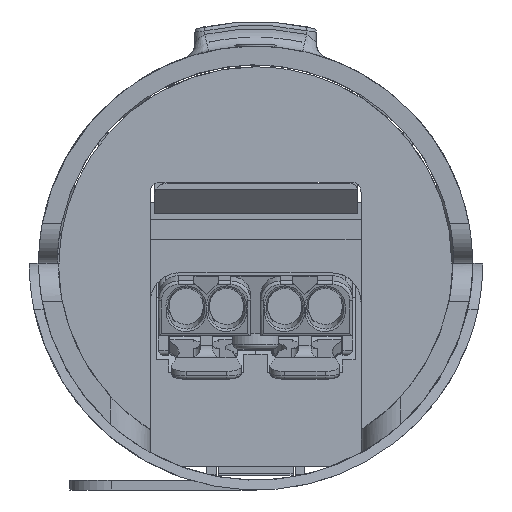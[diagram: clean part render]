
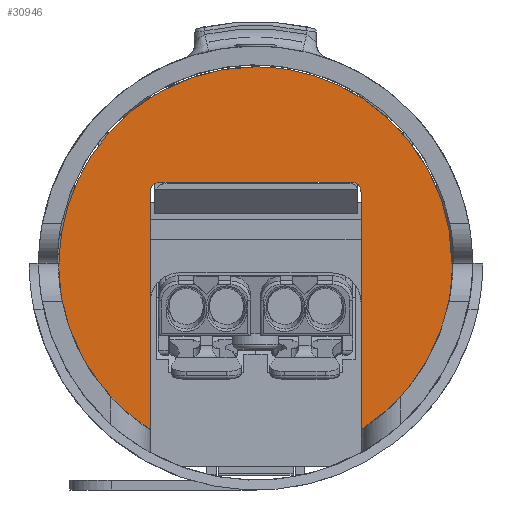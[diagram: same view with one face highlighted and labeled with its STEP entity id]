
A CAD part, left-side view. The second image highlights one B-rep face of the part: STEP entity #30946.
In plain terms, the highlighted planar face has unit normal (-1, 0, 0.009).
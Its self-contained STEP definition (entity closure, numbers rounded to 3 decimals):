
#7326=ORIENTED_EDGE('',*,*,#16497,.T.);
#7327=ORIENTED_EDGE('',*,*,#16498,.T.);
#7328=ORIENTED_EDGE('',*,*,#16499,.T.);
#7329=ORIENTED_EDGE('',*,*,#16500,.F.);
#7330=ORIENTED_EDGE('',*,*,#16501,.T.);
#7331=ORIENTED_EDGE('',*,*,#16502,.T.);
#7332=ORIENTED_EDGE('',*,*,#16503,.F.);
#7333=ORIENTED_EDGE('',*,*,#16504,.F.);
#7334=ORIENTED_EDGE('',*,*,#16505,.F.);
#7335=ORIENTED_EDGE('',*,*,#16506,.T.);
#7336=ORIENTED_EDGE('',*,*,#16479,.F.);
#7337=ORIENTED_EDGE('',*,*,#16507,.T.);
#16479=EDGE_CURVE('',#21503,#21504,#25000,.T.);
#16497=EDGE_CURVE('',#21514,#21515,#25018,.T.);
#16498=EDGE_CURVE('',#21515,#21516,#25019,.T.);
#16499=EDGE_CURVE('',#21516,#21517,#25020,.T.);
#16500=EDGE_CURVE('',#21518,#21517,#25021,.F.);
#16501=EDGE_CURVE('',#21518,#21519,#25022,.T.);
#16502=EDGE_CURVE('',#21519,#21520,#25023,.T.);
#16503=EDGE_CURVE('',#21521,#21520,#25024,.F.);
#16504=EDGE_CURVE('',#21522,#21521,#25025,.F.);
#16505=EDGE_CURVE('',#21523,#21522,#25026,.F.);
#16506=EDGE_CURVE('',#21523,#21504,#25027,.T.);
#16507=EDGE_CURVE('',#21503,#21514,#25028,.T.);
#21503=VERTEX_POINT('',#44892);
#21504=VERTEX_POINT('',#44897);
#21514=VERTEX_POINT('',#44985);
#21515=VERTEX_POINT('',#44986);
#21516=VERTEX_POINT('',#44991);
#21517=VERTEX_POINT('',#44996);
#21518=VERTEX_POINT('',#45001);
#21519=VERTEX_POINT('',#45011);
#21520=VERTEX_POINT('',#45016);
#21521=VERTEX_POINT('',#45034);
#21522=VERTEX_POINT('',#45052);
#21523=VERTEX_POINT('',#45057);
#25000=B_SPLINE_CURVE_WITH_KNOTS('',3,(#44893,#44894,#44895,#44896),
 .UNSPECIFIED.,.F.,.F.,(4,4),(0.,1.),.UNSPECIFIED.);
#25018=B_SPLINE_CURVE_WITH_KNOTS('',3,(#44981,#44982,#44983,#44984),
 .UNSPECIFIED.,.F.,.F.,(4,4),(0.,1.),.UNSPECIFIED.);
#25019=B_SPLINE_CURVE_WITH_KNOTS('',3,(#44987,#44988,#44989,#44990),
 .UNSPECIFIED.,.F.,.F.,(4,4),(0.,1.),.UNSPECIFIED.);
#25020=B_SPLINE_CURVE_WITH_KNOTS('',3,(#44992,#44993,#44994,#44995),
 .UNSPECIFIED.,.F.,.F.,(4,4),(0.,1.),.UNSPECIFIED.);
#25021=B_SPLINE_CURVE_WITH_KNOTS('',3,(#44997,#44998,#44999,#45000),
 .UNSPECIFIED.,.F.,.F.,(4,4),(0.,1.),.UNSPECIFIED.);
#25022=B_SPLINE_CURVE_WITH_KNOTS('',3,(#45002,#45003,#45004,#45005,#45006,
#45007,#45008,#45009,#45010),.UNSPECIFIED.,.F.,.F.,(4,1,1,1,1,1,4),(0.,
0.25,0.375,0.5,0.625,0.75,1.),.UNSPECIFIED.);
#25023=B_SPLINE_CURVE_WITH_KNOTS('',3,(#45012,#45013,#45014,#45015),
 .UNSPECIFIED.,.F.,.F.,(4,4),(0.,1.),.UNSPECIFIED.);
#25024=B_SPLINE_CURVE_WITH_KNOTS('',3,(#45017,#45018,#45019,#45020,#45021,
#45022,#45023,#45024,#45025,#45026,#45027,#45028,#45029,#45030,#45031,#45032,
#45033),.UNSPECIFIED.,.F.,.F.,(4,1,1,1,1,1,1,1,1,1,1,1,1,1,4),(0.,0.125,
0.188,0.25,0.313,0.375,0.438,0.5,0.563,0.625,0.688,0.75,0.813,0.875,
1.),.UNSPECIFIED.);
#25025=B_SPLINE_CURVE_WITH_KNOTS('',3,(#45035,#45036,#45037,#45038,#45039,
#45040,#45041,#45042,#45043,#45044,#45045,#45046,#45047,#45048,#45049,#45050,
#45051),.UNSPECIFIED.,.F.,.F.,(4,1,1,1,1,1,1,1,1,1,1,1,1,1,4),(0.,0.125,
0.188,0.25,0.313,0.375,0.438,0.5,0.563,0.625,0.688,0.75,0.813,0.875,
1.),.UNSPECIFIED.);
#25026=B_SPLINE_CURVE_WITH_KNOTS('',3,(#45053,#45054,#45055,#45056),
 .UNSPECIFIED.,.F.,.F.,(4,4),(0.,1.),.UNSPECIFIED.);
#25027=B_SPLINE_CURVE_WITH_KNOTS('',3,(#45058,#45059,#45060,#45061,#45062,
#45063,#45064,#45065,#45066),.UNSPECIFIED.,.F.,.F.,(4,1,1,1,1,1,4),(0.,
0.25,0.375,0.5,0.625,0.75,1.),.UNSPECIFIED.);
#25028=B_SPLINE_CURVE_WITH_KNOTS('',3,(#45067,#45068,#45069,#45070),
 .UNSPECIFIED.,.F.,.F.,(4,4),(0.,1.),.UNSPECIFIED.);
#26374=EDGE_LOOP('',(#7326,#7327,#7328,#7329,#7330,#7331,#7332,#7333,#7334,
#7335,#7336,#7337));
#28072=FACE_BOUND('',#26374,.T.);
#29768=PLANE('',#36036);
#30946=ADVANCED_FACE('',(#28072),#29768,.T.);
#36036=AXIS2_PLACEMENT_3D('',#44980,#37840,#37841);
#37840=DIRECTION('',(-1.,0.,0.009));
#37841=DIRECTION('',(-0.009,0.,-1.));
#44892=CARTESIAN_POINT('',(490.114,23.196,1.151));
#44893=CARTESIAN_POINT('',(490.114,23.196,1.151));
#44894=CARTESIAN_POINT('',(490.044,23.196,-6.881));
#44895=CARTESIAN_POINT('',(489.974,23.196,-14.914));
#44896=CARTESIAN_POINT('',(489.904,23.196,-22.946));
#44897=CARTESIAN_POINT('',(489.904,23.196,-22.946));
#44980=CARTESIAN_POINT('',(489.872,10.484,-26.638));
#44981=CARTESIAN_POINT('',(490.123,22.196,2.151));
#44982=CARTESIAN_POINT('',(490.123,18.963,2.151));
#44983=CARTESIAN_POINT('',(490.123,15.729,2.151));
#44984=CARTESIAN_POINT('',(490.123,12.496,2.151));
#44985=CARTESIAN_POINT('',(490.123,22.196,2.151));
#44986=CARTESIAN_POINT('',(490.123,12.496,2.151));
#44987=CARTESIAN_POINT('',(490.123,12.496,2.151));
#44988=CARTESIAN_POINT('',(490.123,9.263,2.151));
#44989=CARTESIAN_POINT('',(490.123,6.029,2.151));
#44990=CARTESIAN_POINT('',(490.123,2.796,2.151));
#44991=CARTESIAN_POINT('',(490.123,2.796,2.151));
#44992=CARTESIAN_POINT('',(490.123,2.796,2.151));
#44993=CARTESIAN_POINT('',(490.123,2.246,2.151));
#44994=CARTESIAN_POINT('',(490.119,1.796,1.706));
#44995=CARTESIAN_POINT('',(490.114,1.796,1.151));
#44996=CARTESIAN_POINT('',(490.114,1.796,1.151));
#44997=CARTESIAN_POINT('',(490.114,1.796,1.151));
#44998=CARTESIAN_POINT('',(490.044,1.796,-6.881));
#44999=CARTESIAN_POINT('',(489.974,1.796,-14.914));
#45000=CARTESIAN_POINT('',(489.904,1.796,-22.946));
#45001=CARTESIAN_POINT('',(489.904,1.796,-22.946));
#45002=CARTESIAN_POINT('',(489.904,1.796,-22.946));
#45003=CARTESIAN_POINT('',(489.912,0.348,-22.029));
#45004=CARTESIAN_POINT('',(489.926,-1.591,-20.433));
#45005=CARTESIAN_POINT('',(489.948,-3.707,-17.874));
#45006=CARTESIAN_POINT('',(489.967,-5.071,-15.717));
#45007=CARTESIAN_POINT('',(489.987,-6.163,-13.411));
#45008=CARTESIAN_POINT('',(490.015,-7.193,-10.255));
#45009=CARTESIAN_POINT('',(490.036,-7.504,-7.762));
#45010=CARTESIAN_POINT('',(490.051,-7.504,-6.049));
#45011=CARTESIAN_POINT('',(490.051,-7.504,-6.049));
#45012=CARTESIAN_POINT('',(490.051,-7.504,-6.049));
#45013=CARTESIAN_POINT('',(490.051,-7.471,-6.049));
#45014=CARTESIAN_POINT('',(490.051,-7.437,-6.049));
#45015=CARTESIAN_POINT('',(490.051,-7.404,-6.049));
#45016=CARTESIAN_POINT('',(490.051,-7.404,-6.049));
#45017=CARTESIAN_POINT('',(490.051,-7.404,-6.049));
#45018=CARTESIAN_POINT('',(490.062,-7.404,-4.779));
#45019=CARTESIAN_POINT('',(490.079,-7.231,-2.915));
#45020=CARTESIAN_POINT('',(490.1,-6.644,-0.487));
#45021=CARTESIAN_POINT('',(490.115,-6.049,1.257));
#45022=CARTESIAN_POINT('',(490.131,-5.203,3.117));
#45023=CARTESIAN_POINT('',(490.146,-4.189,4.846));
#45024=CARTESIAN_POINT('',(490.161,-2.961,6.538));
#45025=CARTESIAN_POINT('',(490.174,-1.6,8.047));
#45026=CARTESIAN_POINT('',(490.186,-0.092,9.409));
#45027=CARTESIAN_POINT('',(490.197,1.598,10.636));
#45028=CARTESIAN_POINT('',(490.206,3.325,11.649));
#45029=CARTESIAN_POINT('',(490.213,5.191,12.496));
#45030=CARTESIAN_POINT('',(490.218,6.936,13.091));
#45031=CARTESIAN_POINT('',(490.223,9.365,13.679));
#45032=CARTESIAN_POINT('',(490.225,11.228,13.851));
#45033=CARTESIAN_POINT('',(490.225,12.496,13.851));
#45034=CARTESIAN_POINT('',(490.225,12.496,13.851));
#45035=CARTESIAN_POINT('',(490.225,12.496,13.851));
#45036=CARTESIAN_POINT('',(490.225,13.763,13.851));
#45037=CARTESIAN_POINT('',(490.223,15.626,13.678));
#45038=CARTESIAN_POINT('',(490.218,18.055,13.091));
#45039=CARTESIAN_POINT('',(490.213,19.801,12.496));
#45040=CARTESIAN_POINT('',(490.206,21.665,11.65));
#45041=CARTESIAN_POINT('',(490.197,23.395,10.636));
#45042=CARTESIAN_POINT('',(490.186,25.083,9.41));
#45043=CARTESIAN_POINT('',(490.174,26.592,8.047));
#45044=CARTESIAN_POINT('',(490.161,27.952,6.538));
#45045=CARTESIAN_POINT('',(490.146,29.181,4.845));
#45046=CARTESIAN_POINT('',(490.131,30.194,3.118));
#45047=CARTESIAN_POINT('',(490.115,31.041,1.256));
#45048=CARTESIAN_POINT('',(490.1,31.636,-0.486));
#45049=CARTESIAN_POINT('',(490.079,32.223,-2.914));
#45050=CARTESIAN_POINT('',(490.062,32.396,-4.778));
#45051=CARTESIAN_POINT('',(490.051,32.396,-6.049));
#45052=CARTESIAN_POINT('',(490.051,32.396,-6.049));
#45053=CARTESIAN_POINT('',(490.051,32.396,-6.049));
#45054=CARTESIAN_POINT('',(490.051,32.429,-6.049));
#45055=CARTESIAN_POINT('',(490.051,32.463,-6.049));
#45056=CARTESIAN_POINT('',(490.051,32.496,-6.049));
#45057=CARTESIAN_POINT('',(490.051,32.496,-6.049));
#45058=CARTESIAN_POINT('',(490.051,32.496,-6.049));
#45059=CARTESIAN_POINT('',(490.036,32.496,-7.762));
#45060=CARTESIAN_POINT('',(490.015,32.185,-10.254));
#45061=CARTESIAN_POINT('',(489.987,31.155,-13.411));
#45062=CARTESIAN_POINT('',(489.967,30.062,-15.717));
#45063=CARTESIAN_POINT('',(489.948,28.699,-17.874));
#45064=CARTESIAN_POINT('',(489.926,26.583,-20.433));
#45065=CARTESIAN_POINT('',(489.912,24.644,-22.029));
#45066=CARTESIAN_POINT('',(489.904,23.196,-22.946));
#45067=CARTESIAN_POINT('',(490.114,23.196,1.151));
#45068=CARTESIAN_POINT('',(490.119,23.196,1.701));
#45069=CARTESIAN_POINT('',(490.123,22.75,2.151));
#45070=CARTESIAN_POINT('',(490.123,22.196,2.151));
